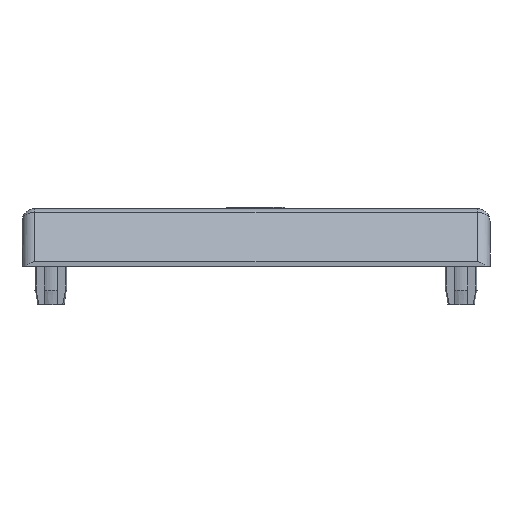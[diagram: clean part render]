
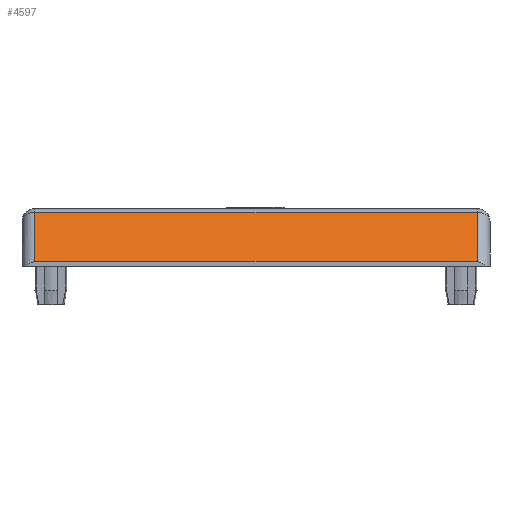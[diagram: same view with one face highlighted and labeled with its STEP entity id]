
A CAD part, front view. The second image highlights one B-rep face of the part: STEP entity #4597.
In plain terms, the highlighted planar face has unit normal (0, -0.707, 0.707).
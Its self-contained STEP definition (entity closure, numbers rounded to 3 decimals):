
#415=FACE_OUTER_BOUND($,#683,.T.);
#683=EDGE_LOOP($,(#3873,#3874,#3875,#3876));
#1163=LINE($,#7236,#1687);
#1200=LINE($,#7418,#1724);
#1202=LINE($,#7426,#1726);
#1203=LINE($,#7428,#1727);
#1687=VECTOR($,#5821,10.91);
#1724=VECTOR($,#5952,69.);
#1726=VECTOR($,#5960,10.91);
#1727=VECTOR($,#5963,69.);
#2122=VERTEX_POINT($,#7227);
#2125=VERTEX_POINT($,#7234);
#2164=VERTEX_POINT($,#7412);
#2167=VERTEX_POINT($,#7421);
#2696=EDGE_CURVE($,#2125,#2122,#1163,.T.);
#2764=EDGE_CURVE($,#2164,#2122,#1200,.T.);
#2768=EDGE_CURVE($,#2167,#2164,#1202,.T.);
#2769=EDGE_CURVE($,#2125,#2167,#1203,.T.);
#3873=ORIENTED_EDGE($,*,*,#2768,.T.);
#3874=ORIENTED_EDGE($,*,*,#2764,.T.);
#3875=ORIENTED_EDGE($,*,*,#2696,.F.);
#3876=ORIENTED_EDGE($,*,*,#2769,.T.);
#4380=PLANE($,#4911);
#4597=ADVANCED_FACE($,(#415),#4380,.F.);
#4911=AXIS2_PLACEMENT_3D($,#7427,#5961,#5962);
#5821=DIRECTION($,(0.,0.707,0.707));
#5952=DIRECTION($,(-1.,0.,0.));
#5960=DIRECTION($,(0.,0.707,0.707));
#5961=DIRECTION('center_axis',(0.,0.707,
-0.707));
#5962=DIRECTION('ref_axis',(1.,0.,0.));
#5963=DIRECTION($,(1.,0.,0.));
#7227=CARTESIAN_POINT('',(-34.5,-88.786,8.414));
#7234=CARTESIAN_POINT('',(-34.5,-96.5,0.7));
#7236=CARTESIAN_POINT($,(-34.5,-82.538,14.663));
#7412=CARTESIAN_POINT('',(34.5,-88.786,8.414));
#7418=CARTESIAN_POINT($,(22.813,-88.786,8.414));
#7421=CARTESIAN_POINT('',(34.5,-96.5,0.7));
#7426=CARTESIAN_POINT($,(34.5,-82.538,14.663));
#7427=CARTESIAN_POINT('Origin',(27.375,-92.35,4.85));
#7428=CARTESIAN_POINT($,(-27.375,-96.5,0.7));
